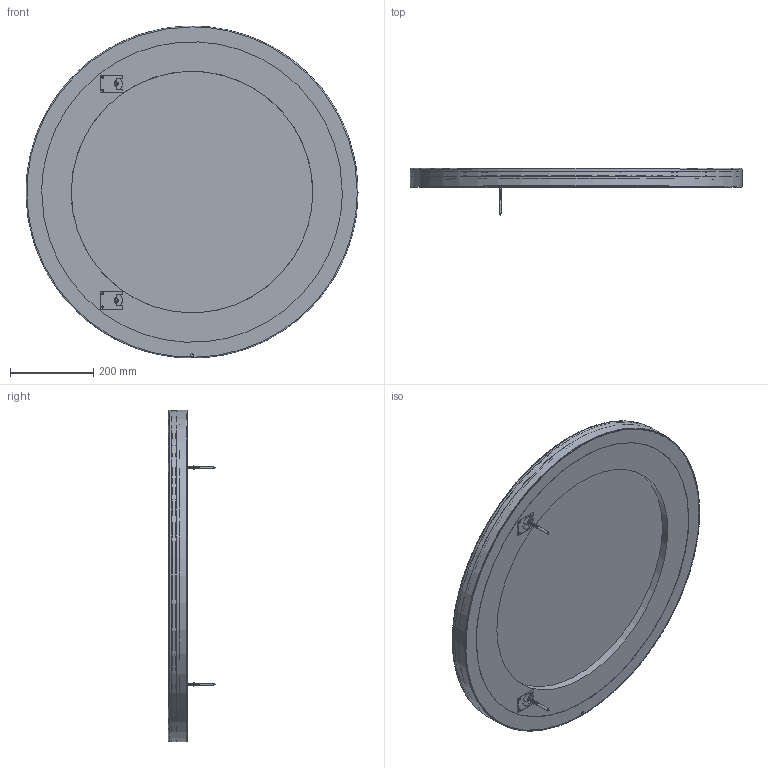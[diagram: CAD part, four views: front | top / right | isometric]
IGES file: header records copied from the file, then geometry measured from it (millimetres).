
Global section: file name: 3D Dosyası,; native system: Autodesk Inventor 2024; preprocessor: unknown; author: pc11; date: 20250708.133947; units: millimetre
Bounding box: 800 x 114 x 799.76 mm (x, y, z)
Volume: 6230769.6 mm3; surface area: 2029412.7 mm2
Topology: 14 solids, 15 shells, 1150 faces, 2934 edges, 1778 vertices
Faces by surface type: bspline 1150
